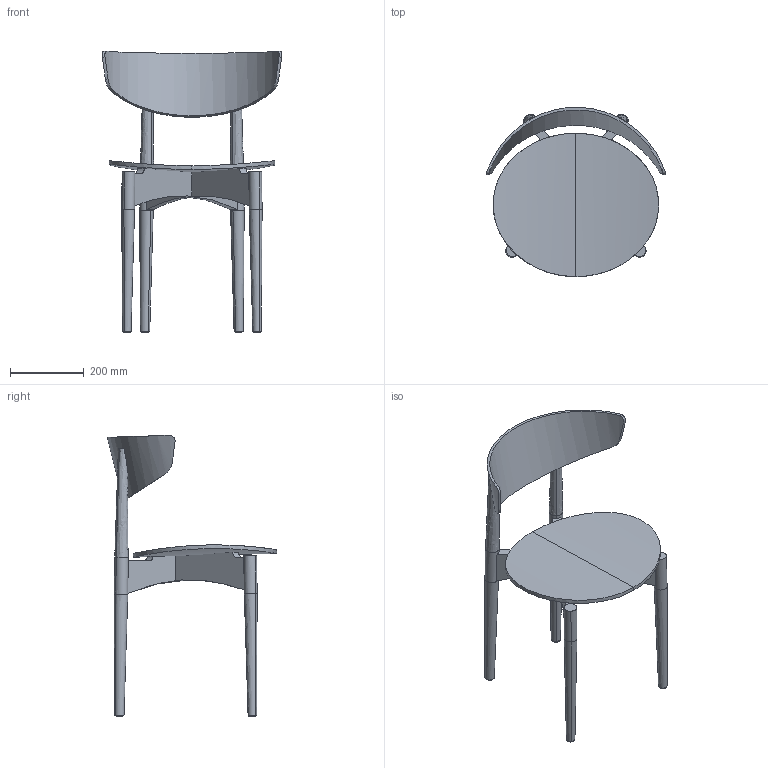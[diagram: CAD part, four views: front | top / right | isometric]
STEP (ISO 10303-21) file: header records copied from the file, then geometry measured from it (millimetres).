
FILE_DESCRIPTION(/* description */ (''),/* implementation_level */ '2;1');
FILE_NAME(/* name */ 'Herman_dining_chair_wood_3D',/* time_stamp */ '2021-07-01T13:40:12+02:00',/* author */ (''),/* organization */ (''),/* preprocessor_version */ 'ST-DEVELOPER v16.5',/* originating_system */ '',/* authorisation */ '');
FILE_SCHEMA (('CONFIG_CONTROL_DESIGN'));
Length unit declared in the file: millimetre
Products named in the file (1): Document
Bounding box: 488.36 x 459.9 x 764.67 mm (x, y, z)
Volume: 5281356.9 mm3; surface area: 891083.5 mm2
Topology: 12 solids, 12 shells, 103 faces, 213 edges, 134 vertices
Faces by surface type: cylinder 43, plane 36, bspline 24
Entity records: 5923 total; most frequent: CARTESIAN_POINT 4351, ORIENTED_EDGE 426, EDGE_CURVE 213, B_SPLINE_CURVE_WITH_KNOTS 140, VERTEX_POINT 134, ADVANCED_FACE 103, FACE_OUTER_BOUND 103, EDGE_LOOP 103
